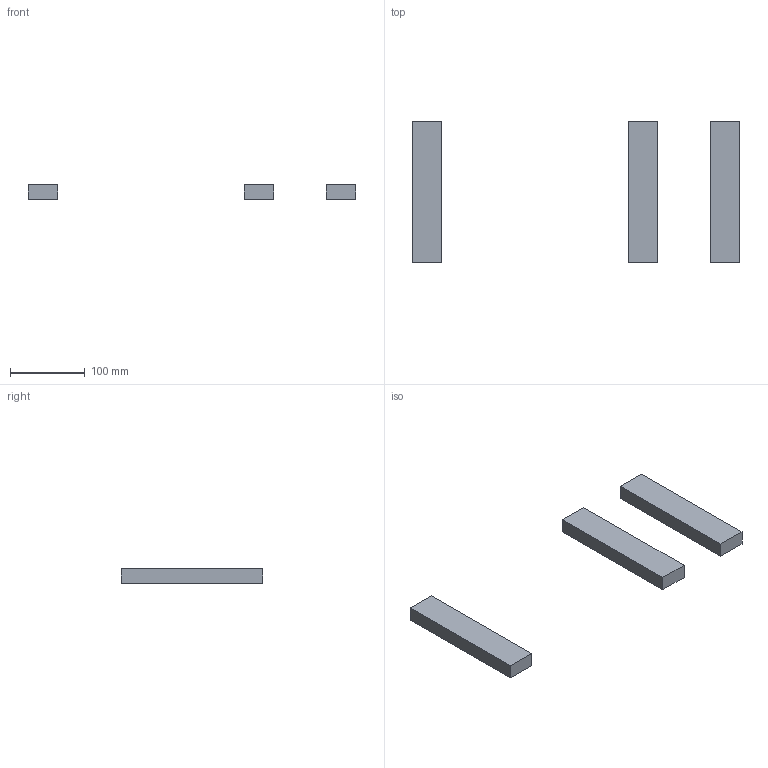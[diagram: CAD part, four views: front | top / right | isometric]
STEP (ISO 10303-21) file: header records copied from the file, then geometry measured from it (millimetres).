
FILE_DESCRIPTION(/* description */ (''),/* implementation_level */ '2;1');
FILE_NAME(/* name */ 'FRF8D2~1',/* time_stamp */ '2014-02-14T19:32:01+01:00',/* author */ (''),/* organization */ (''),/* preprocessor_version */ 'ST-DEVELOPER v14',/* originating_system */ '',/* authorisation */ '');
FILE_SCHEMA (('AUTOMOTIVE_DESIGN'));
Length unit declared in the file: millimetre
Products named in the file (1): Document
Bounding box: 440 x 190 x 20 mm (x, y, z)
Volume: 456000 mm3; surface area: 73200 mm2
Topology: 3 solids, 3 shells, 18 faces, 36 edges, 24 vertices
Faces by surface type: plane 18
Entity records: 844 total; most frequent: CARTESIAN_POINT 260, B_SPLINE_CURVE_WITH_KNOTS 108, ORIENTED_EDGE 72, PCURVE 72, DEFINITIONAL_REPRESENTATION 72, SURFACE_CURVE 36, EDGE_CURVE 36, VERTEX_POINT 24
